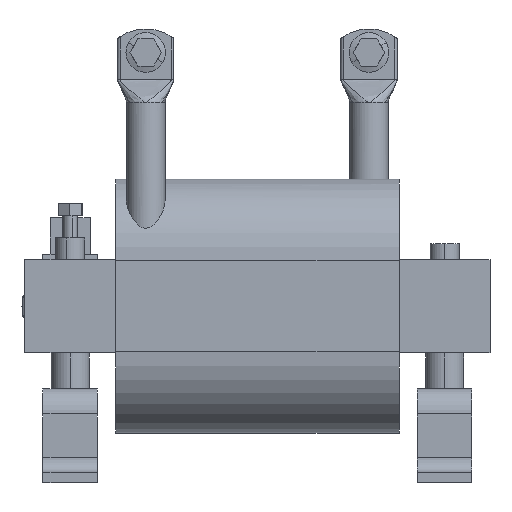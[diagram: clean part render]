
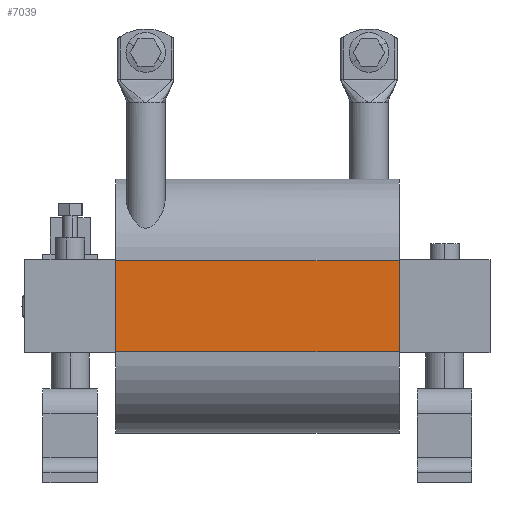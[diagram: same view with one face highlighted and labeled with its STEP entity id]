
A CAD part, left-side view. The second image highlights one B-rep face of the part: STEP entity #7039.
In plain terms, the highlighted planar face has unit normal (-1, 0, 0).
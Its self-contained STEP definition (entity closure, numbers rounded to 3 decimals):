
#586 = VERTEX_POINT ( 'NONE', #690 ) ;
#614 = DIRECTION ( 'NONE',  ( 0., 0., 1. ) ) ;
#690 = CARTESIAN_POINT ( 'NONE',  ( -149., 50., 25. ) ) ;
#726 = LINE ( 'NONE', #4311, #2076 ) ;
#2013 = CARTESIAN_POINT ( 'NONE',  ( -149., 206.1, -25. ) ) ;
#2076 = VECTOR ( 'NONE', #614, 1000. ) ;
#3085 = VERTEX_POINT ( 'NONE', #16553 ) ;
#3120 = LINE ( 'NONE', #6252, #18542 ) ;
#3926 = FACE_OUTER_BOUND ( 'NONE', #19692, .T. ) ;
#4311 = CARTESIAN_POINT ( 'NONE',  ( -149., 206.1, -25. ) ) ;
#4786 = CARTESIAN_POINT ( 'NONE',  ( -149., 206.1, -25. ) ) ;
#5197 = VERTEX_POINT ( 'NONE', #9475 ) ;
#6252 = CARTESIAN_POINT ( 'NONE',  ( -149., 206.1, 25. ) ) ;
#7039 = ADVANCED_FACE ( 'NONE', ( #3926 ), #21035, .F. ) ;
#7252 = DIRECTION ( 'NONE',  ( 1., 0., 0. ) ) ;
#7710 = EDGE_CURVE ( 'NONE', #21166, #3085, #726, .T. ) ;
#8126 = DIRECTION ( 'NONE',  ( 0., -1., 0. ) ) ;
#8553 = EDGE_CURVE ( 'NONE', #5197, #586, #9910, .T. ) ;
#8816 = DIRECTION ( 'NONE',  ( 0., 0., -1. ) ) ;
#9475 = CARTESIAN_POINT ( 'NONE',  ( -149., 50., -25. ) ) ;
#9910 = LINE ( 'NONE', #10034, #19593 ) ;
#10034 = CARTESIAN_POINT ( 'NONE',  ( -149., 50., -25. ) ) ;
#10192 = ORIENTED_EDGE ( 'NONE', *, *, #21276, .T. ) ;
#10339 = ORIENTED_EDGE ( 'NONE', *, *, #8553, .T. ) ;
#10748 = EDGE_CURVE ( 'NONE', #3085, #586, #3120, .T. ) ;
#14692 = DIRECTION ( 'NONE',  ( 0., -1., 0. ) ) ;
#14846 = DIRECTION ( 'NONE',  ( 0., 0., 1. ) ) ;
#14989 = AXIS2_PLACEMENT_3D ( 'NONE', #2013, #7252, #8816 ) ;
#16367 = LINE ( 'NONE', #19832, #18048 ) ;
#16553 = CARTESIAN_POINT ( 'NONE',  ( -149., 206.1, 25. ) ) ;
#17715 = ORIENTED_EDGE ( 'NONE', *, *, #7710, .F. ) ;
#18048 = VECTOR ( 'NONE', #14692, 1000. ) ;
#18542 = VECTOR ( 'NONE', #8126, 1000. ) ;
#19593 = VECTOR ( 'NONE', #14846, 1000. ) ;
#19692 = EDGE_LOOP ( 'NONE', ( #10339, #20088, #17715, #10192 ) ) ;
#19832 = CARTESIAN_POINT ( 'NONE',  ( -149., 206.1, -25. ) ) ;
#20088 = ORIENTED_EDGE ( 'NONE', *, *, #10748, .F. ) ;
#21035 = PLANE ( 'NONE',  #14989 ) ;
#21166 = VERTEX_POINT ( 'NONE', #4786 ) ;
#21276 = EDGE_CURVE ( 'NONE', #21166, #5197, #16367, .T. ) ;
